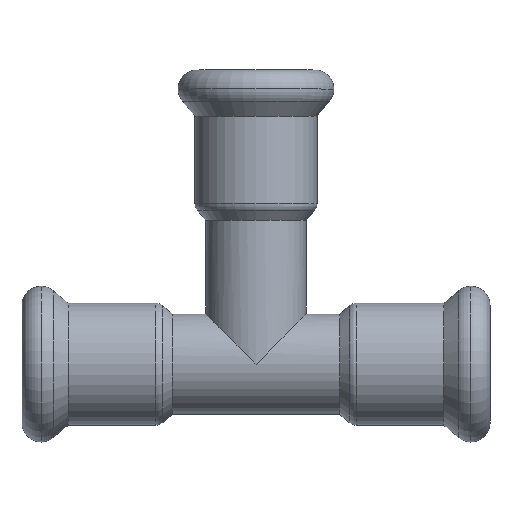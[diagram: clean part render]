
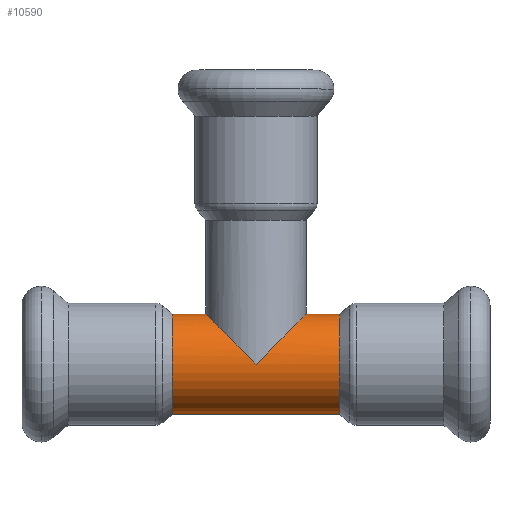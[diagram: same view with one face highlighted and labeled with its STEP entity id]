
A CAD part, top view. The second image highlights one B-rep face of the part: STEP entity #10590.
In plain terms, the highlighted cylindrical face has radius 7.5 mm (diameter 15 mm), a partial arc.
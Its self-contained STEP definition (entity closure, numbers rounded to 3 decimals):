
#100=CARTESIAN_POINT('',(-88.693,24.909,
0.));
#110=VERTEX_POINT('',#100);
#290=CARTESIAN_POINT('',(-103.693,24.909,0.));
#300=VERTEX_POINT('',#290);
#330=CARTESIAN_POINT('',(-96.193,17.409,0.));
#340=DIRECTION('',(0.707,0.707,0.));
#350=DIRECTION('',(-0.707,0.707,0.));
#360=AXIS2_PLACEMENT_3D('',#330,#340,#350);
#370=ELLIPSE('',#360,10.607,7.5);
#420=CARTESIAN_POINT('',(-96.193,17.409,0.));
#430=DIRECTION('',(-0.707,0.707,0.));
#440=DIRECTION('',(0.707,0.707,0.));
#450=AXIS2_PLACEMENT_3D('',#420,#430,#440);
#460=ELLIPSE('',#450,10.607,7.5);
#6590=CARTESIAN_POINT('',(-83.693,24.909,
0.));
#6600=VERTEX_POINT('',#6590);
#6690=CARTESIAN_POINT('',(-83.693,9.909,0.));
#6700=VERTEX_POINT('',#6690);
#6730=CARTESIAN_POINT('',(-83.693,17.409,0.));
#6740=DIRECTION('',(-1.,0.,0.));
#6750=DIRECTION('',(0.,1.,0.));
#6760=AXIS2_PLACEMENT_3D('',#6730,#6740,#6750);
#6770=CIRCLE('',#6760,7.5);
#6780=EDGE_CURVE('',#6700,#6600,#6770,.T.);
#10200=CARTESIAN_POINT('',(-108.693,17.409,0.));
#10210=DIRECTION('',(-1.,0.,0.));
#10220=DIRECTION('',(0.,1.,0.));
#10230=AXIS2_PLACEMENT_3D('',#10200,#10210,#10220);
#10240=CYLINDRICAL_SURFACE('',#10230,7.5);
#10250=CARTESIAN_POINT('',(-108.693,9.909,
0.));
#10260=DIRECTION('',(-1.,0.,0.));
#10270=VECTOR('',#10260,1.);
#10280=LINE('',#10250,#10270);
#10290=CARTESIAN_POINT('',(-108.693,9.909,
0.));
#10300=VERTEX_POINT('',#10290);
#10310=EDGE_CURVE('',#6700,#10300,#10280,.T.);
#10320=ORIENTED_EDGE('',*,*,#10310,.F.);
#10330=CARTESIAN_POINT('',(-108.693,17.409,0.));
#10340=DIRECTION('',(-1.,0.,0.));
#10350=DIRECTION('',(0.,1.,0.));
#10360=AXIS2_PLACEMENT_3D('',#10330,#10340,#10350);
#10370=CIRCLE('',#10360,7.5);
#10380=CARTESIAN_POINT('',(-108.693,24.909,0.));
#10390=VERTEX_POINT('',#10380);
#10400=EDGE_CURVE('',#10300,#10390,#10370,.T.);
#10410=ORIENTED_EDGE('',*,*,#10400,.F.);
#10420=CARTESIAN_POINT('',(-108.693,24.909,0.));
#10430=DIRECTION('',(-1.,0.,0.));
#10440=VECTOR('',#10430,1.);
#10450=LINE('',#10420,#10440);
#10460=EDGE_CURVE('',#300,#10390,#10450,.T.);
#10470=ORIENTED_EDGE('',*,*,#10460,.T.);
#10480=CARTESIAN_POINT('',(-96.193,17.409,
7.5));
#10490=VERTEX_POINT('',#10480);
#10500=EDGE_CURVE('',#300,#10490,#370,.T.);
#10510=ORIENTED_EDGE('',*,*,#10500,.F.);
#10520=EDGE_CURVE('',#10490,#110,#460,.T.);
#10530=ORIENTED_EDGE('',*,*,#10520,.F.);
#10540=EDGE_CURVE('',#6600,#110,#10450,.T.);
#10550=ORIENTED_EDGE('',*,*,#10540,.T.);
#10560=ORIENTED_EDGE('',*,*,#6780,.T.);
#10570=EDGE_LOOP('',(#10560,#10550,#10530,#10510,#10470,#10410,#10320));
#10580=FACE_OUTER_BOUND('',#10570,.T.);
#10590=ADVANCED_FACE('',(#10580),#10240,.T.);
